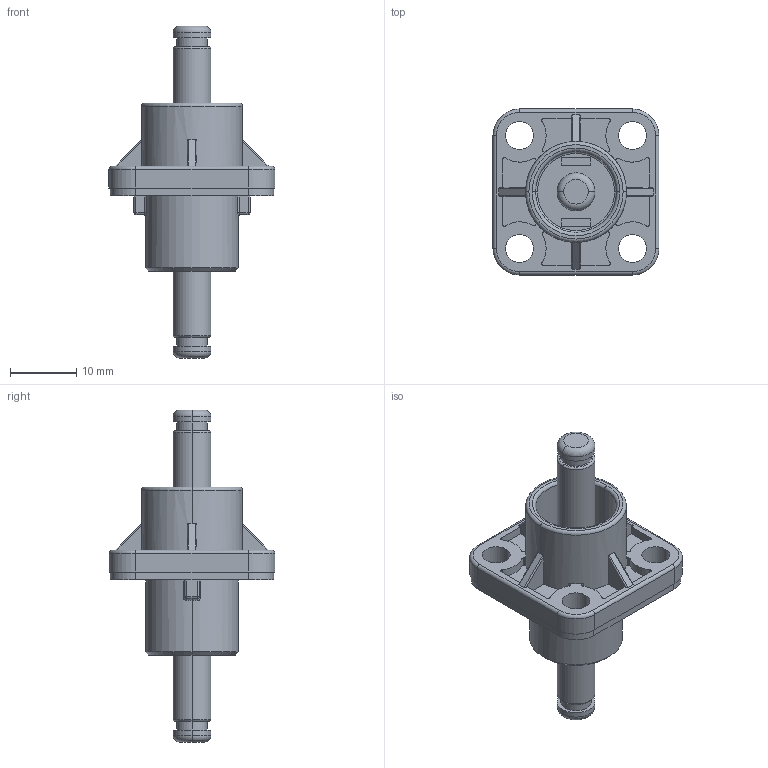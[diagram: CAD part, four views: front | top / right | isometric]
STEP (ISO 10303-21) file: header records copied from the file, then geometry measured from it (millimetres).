
FILE_DESCRIPTION (( 'STEP AP214' ), '1' );
FILE_NAME ('RL9-057-30X-F1.STEP', '2017-01-12T01:20:32', ( '' ), ( '' ), 'SwSTEP 2.0', 'SolidWorks 2014', '' );
FILE_SCHEMA (( 'AUTOMOTIVE_DESIGN' ));
Length unit declared in the file: millimetre
Products named in the file (1): RL9-057-30X-F1
Bounding box: 25 x 25 x 50 mm (x, y, z)
Volume: 4864.1 mm3; surface area: 4341.4 mm2
Topology: 1 solids, 1 shells, 228 faces, 582 edges, 369 vertices
Faces by surface type: cylinder 114, plane 79, torus 25, sphere 4, bspline 4, cone 2
Entity records: 7583 total; most frequent: CARTESIAN_POINT 1382, DIRECTION 1270, ORIENTED_EDGE 1156, EDGE_CURVE 578, AXIS2_PLACEMENT_3D 497, VERTEX_POINT 369, LINE 276, VECTOR 276
